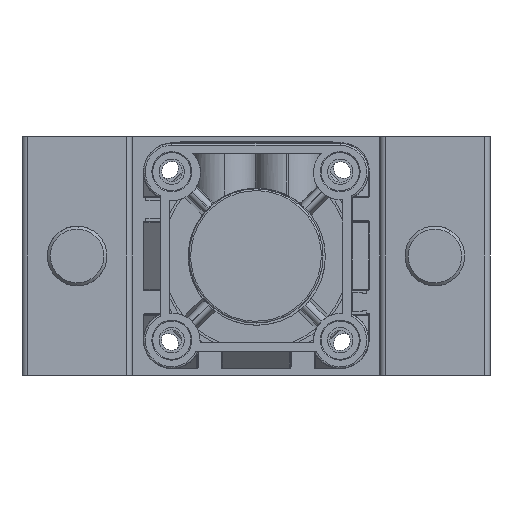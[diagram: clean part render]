
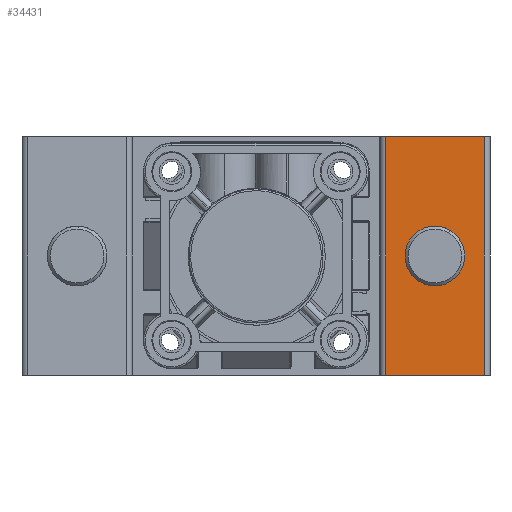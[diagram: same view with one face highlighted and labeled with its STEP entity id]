
A CAD part, front view. The second image highlights one B-rep face of the part: STEP entity #34431.
In plain terms, the highlighted planar face has unit normal (0, -1, 0).
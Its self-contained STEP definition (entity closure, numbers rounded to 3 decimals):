
#780 = VECTOR ( 'NONE', #15376, 1000. ) ;
#1135 = CARTESIAN_POINT ( 'NONE',  ( 122., -167., 80. ) ) ;
#1491 = DIRECTION ( 'NONE',  ( 0., 0., -1. ) ) ;
#1811 = FACE_BOUND ( 'NONE', #31511, .T. ) ;
#2241 = CIRCLE ( 'NONE', #20924, 10. ) ;
#2400 = LINE ( 'NONE', #39104, #35780 ) ;
#2777 = CARTESIAN_POINT ( 'NONE',  ( 155., -167., 0. ) ) ;
#2813 = AXIS2_PLACEMENT_3D ( 'NONE', #35315, #4039, #25956 ) ;
#3135 = DIRECTION ( 'NONE',  ( 0., 0., -1. ) ) ;
#4039 = DIRECTION ( 'NONE',  ( 0., 1., 0. ) ) ;
#4752 = EDGE_CURVE ( 'NONE', #23352, #19616, #2400, .T. ) ;
#5411 = CARTESIAN_POINT ( 'NONE',  ( 138.5, -167., 30. ) ) ;
#7531 = CARTESIAN_POINT ( 'NONE',  ( 155., -167., 80. ) ) ;
#7787 = CARTESIAN_POINT ( 'NONE',  ( 138.5, -167., 40. ) ) ;
#9345 = LINE ( 'NONE', #32816, #39811 ) ;
#9651 = ORIENTED_EDGE ( 'NONE', *, *, #4752, .F. ) ;
#10950 = DIRECTION ( 'NONE',  ( 0., 0., -1. ) ) ;
#11181 = DIRECTION ( 'NONE',  ( 0., 0., -1. ) ) ;
#12344 = EDGE_CURVE ( 'NONE', #16585, #37430, #24205, .T. ) ;
#12407 = VECTOR ( 'NONE', #11181, 1000. ) ;
#12733 = EDGE_CURVE ( 'NONE', #39058, #34778, #30064, .T. ) ;
#14780 = CARTESIAN_POINT ( 'NONE',  ( 138.5, -167., 50. ) ) ;
#14967 = ORIENTED_EDGE ( 'NONE', *, *, #24998, .T. ) ;
#15314 = CARTESIAN_POINT ( 'NONE',  ( 155., -167., 0. ) ) ;
#15376 = DIRECTION ( 'NONE',  ( 1., 0., 0. ) ) ;
#16585 = VERTEX_POINT ( 'NONE', #5411 ) ;
#17161 = DIRECTION ( 'NONE',  ( 1., 0., 0. ) ) ;
#19616 = VERTEX_POINT ( 'NONE', #15314 ) ;
#20924 = AXIS2_PLACEMENT_3D ( 'NONE', #7787, #29713, #10950 ) ;
#21301 = EDGE_LOOP ( 'NONE', ( #14967, #9651, #33395, #26149 ) ) ;
#21892 = DIRECTION ( 'NONE',  ( 0., -1., 0. ) ) ;
#21903 = FACE_OUTER_BOUND ( 'NONE', #21301, .T. ) ;
#22800 = PLANE ( 'NONE',  #2813 ) ;
#23352 = VERTEX_POINT ( 'NONE', #7531 ) ;
#24205 = CIRCLE ( 'NONE', #40453, 10. ) ;
#24998 = EDGE_CURVE ( 'NONE', #34778, #19616, #30145, .T. ) ;
#25287 = EDGE_CURVE ( 'NONE', #37430, #16585, #2241, .T. ) ;
#25956 = DIRECTION ( 'NONE',  ( 0., 0., 1. ) ) ;
#26149 = ORIENTED_EDGE ( 'NONE', *, *, #12733, .T. ) ;
#28920 = CARTESIAN_POINT ( 'NONE',  ( 122., -167., 0. ) ) ;
#29713 = DIRECTION ( 'NONE',  ( 0., -1., 0. ) ) ;
#29979 = CARTESIAN_POINT ( 'NONE',  ( 122., -167., 80. ) ) ;
#30064 = LINE ( 'NONE', #29979, #12407 ) ;
#30145 = LINE ( 'NONE', #2777, #780 ) ;
#31511 = EDGE_LOOP ( 'NONE', ( #37224, #35589 ) ) ;
#32816 = CARTESIAN_POINT ( 'NONE',  ( 155., -167., 80. ) ) ;
#33395 = ORIENTED_EDGE ( 'NONE', *, *, #40077, .F. ) ;
#34431 = ADVANCED_FACE ( 'NONE', ( #1811, #21903 ), #22800, .F. ) ;
#34778 = VERTEX_POINT ( 'NONE', #28920 ) ;
#35315 = CARTESIAN_POINT ( 'NONE',  ( 155., -167., 80. ) ) ;
#35589 = ORIENTED_EDGE ( 'NONE', *, *, #25287, .F. ) ;
#35780 = VECTOR ( 'NONE', #1491, 1000. ) ;
#37224 = ORIENTED_EDGE ( 'NONE', *, *, #12344, .F. ) ;
#37430 = VERTEX_POINT ( 'NONE', #14780 ) ;
#39058 = VERTEX_POINT ( 'NONE', #1135 ) ;
#39104 = CARTESIAN_POINT ( 'NONE',  ( 155., -167., 80. ) ) ;
#39811 = VECTOR ( 'NONE', #17161, 1000. ) ;
#40077 = EDGE_CURVE ( 'NONE', #39058, #23352, #9345, .T. ) ;
#40453 = AXIS2_PLACEMENT_3D ( 'NONE', #40764, #21892, #3135 ) ;
#40764 = CARTESIAN_POINT ( 'NONE',  ( 138.5, -167., 40. ) ) ;
